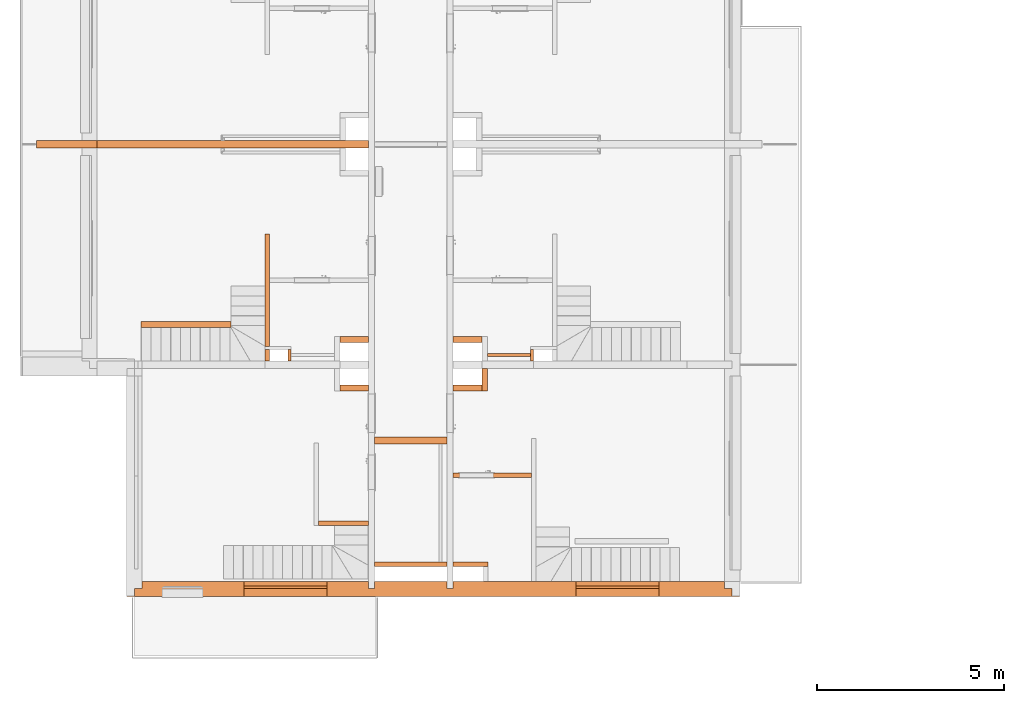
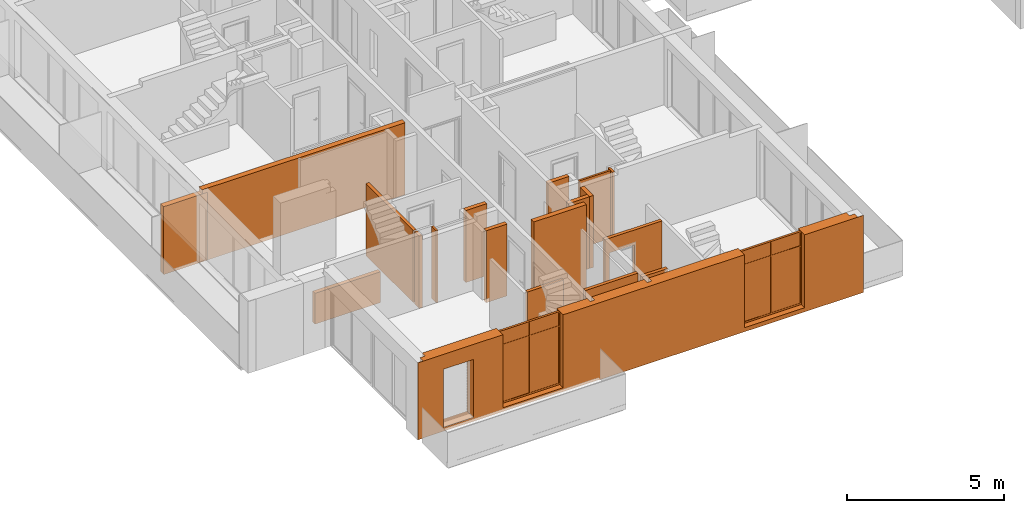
# One storey, part 45 of 61: 20 proxies, 4 openings.
"""IFC2X3 building model written with IfcOpenShell, lengths in millimetres."""

from ifc_helpers import new_model, entity, si_unit, converted_unit, derived_unit, money_unit, direction, frame, origin_with_axes, origin_2d_with_axis, place, context, subcontext, project, spatial, rectangle, extrude, faceted_brep, material, material_list, type_object, element, fill, save


model = new_model("IFC2X3")

# Units and contexts
model_context = context("Model", 3, precision=0.01, world=origin_with_axes(), true_north=direction((0.34421633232, 0.938890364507)))
body_context = subcontext(model_context, "Body", "Model", "MODEL_VIEW")
ifc_project = project(units=[si_unit("LENGTHUNIT", "METRE", prefix="MILLI"), si_unit("AREAUNIT", "SQUARE_METRE"), si_unit("VOLUMEUNIT", "CUBIC_METRE"), converted_unit("PLANEANGLEUNIT", "DEGREE", entity("IfcPlaneAngleMeasure", 0.0174532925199), si_unit("PLANEANGLEUNIT", "RADIAN"), dimensions=[0, 0, 0, 0, 0, 0, 0]), si_unit("SOLIDANGLEUNIT", "STERADIAN"), money_unit("USD"), converted_unit("TIMEUNIT", "Year", entity("IfcTimeMeasure", 31556926.0), si_unit("TIMEUNIT", "SECOND"), dimensions=[0, 0, 1, 0, 0, 0, 0]), si_unit("MASSUNIT", "GRAM", prefix="KILO"), si_unit("THERMODYNAMICTEMPERATUREUNIT", "DEGREE_CELSIUS"), si_unit("LUMINOUSINTENSITYUNIT", "LUMEN"), si_unit("ENERGYUNIT", "JOULE", prefix="MEGA"), derived_unit("THERMALCONDUCTANCEUNIT", [(si_unit("POWERUNIT", "WATT"), 1), (si_unit("LENGTHUNIT", "METRE"), -1), (si_unit("THERMODYNAMICTEMPERATUREUNIT", "KELVIN"), -1)]), derived_unit("SPECIFICHEATCAPACITYUNIT", [(si_unit("ENERGYUNIT", "JOULE"), 1), (si_unit("MASSUNIT", "GRAM", prefix="KILO"), -1), (si_unit("THERMODYNAMICTEMPERATUREUNIT", "KELVIN"), -1)]), derived_unit("MASSDENSITYUNIT", [(si_unit("MASSUNIT", "GRAM", prefix="KILO"), 1), (si_unit("VOLUMEUNIT", "CUBIC_METRE"), -1)])], contexts=[model_context])

# Site, building, storey
site_placement = place(None, origin_with_axes())
site = spatial("IfcSite", under=ifc_project, at=site_placement, Name="USTRONIE MORSKIE", CompositionType="ELEMENT")
building_placement = place(site_placement, origin_with_axes())
building = spatial("IfcBuilding", under=site, at=building_placement, Name="Budynek", CompositionType="ELEMENT")
storey_placement = place(building_placement, frame((0.0, 0.0, 13000.0), z_axis=(0.0, 0.0, 1.0), x_axis=(1.0, 0.0, 0.0)))
storey = spatial("IfcBuildingStorey", under=building, at=storey_placement, Name="PIĘTRO 4", CompositionType="ELEMENT", Elevation=13000.0)

# Proxies
ifc_material_1 = material(Name="Bloczki silikatowe")
building_element_proxy_type_1 = type_object("IfcBuildingElementProxyType", Name="Bloczki silikatowe 120", PredefinedType="NOTDEFINED")
proxy_1_placement = place(storey_placement, frame((356037.920919, 710861.199036, -160.0), z_axis=(0.0, 0.0, 1.0), x_axis=(1.0, 0.0, 0.0)))
element("IfcBuildingElementProxy", 1, at=proxy_1_placement, inside=storey, type_object=building_element_proxy_type_1, material=ifc_material_1, Name="SW-04", context=body_context, shape_type="Brep", body=[
    faceted_brep([(1400.0, -59.9999999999, 2800.0), (1400.0, 59.9999999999, 2800.0), (60.0, 59.9999999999, 2800.0), (60.0, -59.9999999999, 2800.0), (1400.0, -59.9999999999, 0.0), (1400.0, 59.9999999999, 0.0), (60.0, 59.9999999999, 0.0), (60.0, -59.9999999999, 0.0)], [[[0, 1, 2, 3]], [[1, 0, 4, 5]], [[1, 5, 6, 2]], [[7, 3, 2, 6]], [[4, 0, 3, 7]], [[5, 4, 7, 6]]]),
])
proxy_2_placement = place(storey_placement, frame((354717.920919, 715101.199036, -160.0), z_axis=(0.0, 0.0, 1.0), x_axis=(0.0, 1.0, 0.0)))
element("IfcBuildingElementProxy", 2, at=proxy_2_placement, inside=storey, type_object=building_element_proxy_type_1, material=ifc_material_1, Name="SW-04", context=body_context, shape_type="Brep", body=[
    faceted_brep([(480.000444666, 60.0, 0.0), (3499.99837346, 60.0, 0.0), (3499.99837346, -60.0, 0.0), (480.000444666, -60.0, 0.0), (480.000444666, 60.0, 2800.0), (3499.99837346, 60.0, 2800.0), (3499.99837346, -60.0, 2800.0), (480.000444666, -60.0, 2800.0)], [[[0, 1, 2, 3]], [[4, 5, 1, 0]], [[2, 1, 5, 6]], [[3, 2, 6, 7]], [[4, 0, 3, 7]], [[7, 6, 5, 4]]]),
    faceted_brep([(400.000444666, 60.0, 0.0), (400.000444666, -60.0, 0.0), (100.0, -60.0, 0.0), (100.0, 60.0, 0.0), (400.000444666, 60.0, 2800.0), (400.000444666, -60.0, 2800.0), (100.0, -60.0, 2800.0), (100.0, 60.0, 2800.0)], [[[0, 1, 2, 3]], [[1, 0, 4, 5]], [[1, 5, 6, 2]], [[7, 3, 2, 6]], [[4, 0, 3, 7]], [[5, 4, 7, 6]]]),
])
proxy_3_placement = place(storey_placement, frame((359617.920919, 709701.199036, -160.0), z_axis=(0.0, 0.0, 1.0), x_axis=(-1.0, 0.0, 0.0)))
element("IfcBuildingElementProxy", 3, at=proxy_3_placement, inside=storey, type_object=building_element_proxy_type_1, material=ifc_material_1, Name="SW-04", context=body_context, shape_type="Brep", body=[
    faceted_brep([(2020.0, -120.0, 0.0), (2020.0, -120.0, 3000.0), (80.0, -120.0, 3000.0), (80.0, -120.0, 0.0), (2020.0, 4.54747350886e-10, 3000.0), (2020.0, 4.54747350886e-10, 0.0), (80.0, -1.13686837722e-10, 3000.0), (80.0, 0.0, 0.0)], [[[0, 1, 2, 3]], [[4, 1, 0, 5]], [[4, 6, 2, 1]], [[3, 2, 6, 7]], [[0, 3, 7, 5]], [[7, 6, 4, 5]]]),
])

# Proxy, opening
proxy_4_placement = place(storey_placement, frame((359617.914553, 712141.199036, -160.0), z_axis=(0.0, 0.0, 1.0), x_axis=(1.0, 0.0, 0.0)))
proxy_4 = element("IfcBuildingElementProxy", 4, at=proxy_4_placement, inside=storey, type_object=building_element_proxy_type_1, material=ifc_material_1, Name="SW-04", context=body_context, shape_type="Brep", body=[
    faceted_brep([(2180.0, -59.9999999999, 2800.0), (2180.0, 59.9999999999, 2800.0), (80.0063657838, 59.9999999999, 2800.0), (80.0063657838, -59.9999999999, 2800.0), (2180.0, -59.9999999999, 0.0), (2180.0, 59.9999999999, 0.0), (80.0063657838, 59.9999999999, 0.0), (80.0063657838, -59.9999999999, 0.0)], [[[0, 1, 2, 3]], [[1, 0, 4, 5]], [[1, 5, 6, 2]], [[7, 3, 2, 6]], [[4, 0, 3, 7]], [[5, 4, 7, 6]]]),
])
opening_1_placement = place(proxy_4_placement, frame((710.0, 0.0, 160.0), z_axis=(0.0, 0.0, 1.0), x_axis=(1.0, 0.0, 0.0)))
element("IfcOpeningElement", 5, at=opening_1_placement, cuts=proxy_4, Name="Dw.4", context=body_context, shape_type="SweptSolid", body=[
    extrude(rectangle(XDim=920.0, YDim=2070.0, at=origin_2d_with_axis()), frame((0.0, 120.0, 1035.0), z_axis=(0.0, 1.0, 0.0), x_axis=(-1.0, 0.0, 0.0)), (0.0, 0.0, -1.0), 360.0),
    extrude(rectangle(XDim=994.0, YDim=2177.0, at=origin_2d_with_axis()), frame((0.0, 60.0000000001, 1088.5), z_axis=(0.0, 1.0, 0.0), x_axis=(-1.0, 0.0, 0.0)), (0.0, 0.0, 1.0), 120.0),
    extrude(rectangle(XDim=994.0, YDim=2177.0, at=origin_2d_with_axis()), frame((0.0, -59.9999999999, 1088.5), z_axis=(0.0, -1.0, 0.0), x_axis=(-1.0, 0.0, 0.0)), (0.0, 0.0, 1.0), 120.0),
])

# Proxy
proxy_5_placement = place(storey_placement, frame((359617.914553, 709701.199036, -160.0), z_axis=(0.0, 0.0, 1.0), x_axis=(1.0, 0.0, 0.0)))
element("IfcBuildingElementProxy", 6, at=proxy_5_placement, inside=storey, type_object=building_element_proxy_type_1, material=ifc_material_1, Name="SW-04", context=body_context, shape_type="Brep", body=[
    faceted_brep([(1020.0, 120.0, 0.0), (1020.0, 0.0, 0.0), (80.0063657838, 0.0, 0.0), (80.0063657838, 120.0, 0.0), (1020.0, 120.0, 2800.0), (1020.0, 0.0, 2800.0), (80.0063657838, 0.0, 2800.0), (80.0063657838, 120.0, 2800.0)], [[[0, 1, 2, 3]], [[1, 0, 4, 5]], [[1, 5, 6, 2]], [[7, 3, 2, 6]], [[4, 0, 3, 7]], [[5, 4, 7, 6]]]),
])

# Proxies, openings
ifc_material_2 = material(Name="Tynk zewnętrzny")
ifc_material_3 = material(Name="Wełna ELEW")
ifc_material_4 = material(Name="Beton konstrukcyjny B25")
ifc_material_list_1 = material_list([ifc_material_2, ifc_material_3, ifc_material_4])
building_element_proxy_type_2 = type_object("IfcBuildingElementProxyType", Name="20+20 410", PredefinedType="NOTDEFINED")
proxy_6_placement = place(storey_placement, frame((367067.957311, 709201.199036, -160.0), z_axis=(0.0, 0.0, 1.0), x_axis=(-1.0, 0.0, 0.0)))
proxy_6 = element("IfcBuildingElementProxy", 7, at=proxy_6_placement, inside=storey, type_object=building_element_proxy_type_2, material=ifc_material_list_1, Name="SZ-01", context=body_context, shape_type="Brep", body=[
    faceted_brep([(15900.0368073, 299.99990748, 110.0), (15900.0368073, 299.99990748, 0.0), (16100.0363918, 300.0, 0.0), (16100.0363918, 300.0, 3000.0), (-300.000619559, 300.0, 3000.0), (-300.000619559, 300.0, 0.0), (9450.03639181, 300.000003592, 0.0), (9450.03639181, 300.000003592, 110.0), (15900.0368281, 310.0, 110.0), (15900.0368281, 310.0, 0.0), (16100.0363918, 310.0, 0.0), (16100.0363918, 310.0, 3000.0), (-300.000640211, 310.0, 3000.0), (-300.000640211, 310.0, 0.0), (9450.03639181, 310.0, 0.0), (9450.03639181, 310.0, 110.0)], [[[0, 1, 2, 3, 4, 5, 6, 7]], [[0, 8, 9, 1]], [[1, 9, 10, 2]], [[11, 3, 2, 10]], [[3, 11, 12, 4]], [[5, 4, 12, 13]], [[14, 6, 5, 13]], [[15, 7, 6, 14]], [[0, 7, 15, 8]], [[15, 14, 13, 12, 11, 10, 9, 8]]]),
    faceted_brep([(15900.0363918, 100.0, 3000.0), (15900.0363918, 300.0, 3000.0), (-100.000619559, 300.0, 3000.0), (-100.00020652, 100.0, 3000.0), (15900.0363918, 100.0, 0.0), (15900.0363918, 300.0, 0.0), (-100.000619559, 300.0, 0.0), (-100.00020652, 100.0, 0.0)], [[[0, 1, 2, 3]], [[1, 0, 4, 5]], [[1, 5, 6, 2]], [[7, 3, 2, 6]], [[4, 0, 3, 7]], [[5, 4, 7, 6]]]),
    faceted_brep([(7370.03639181, 100.0, 3000.0), (99.9997934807, 100.0, 3000.0), (100.00020652, -100.0, 3000.0), (7370.03639181, -100.0, 3000.0), (7370.03639181, 100.0, 0.0), (99.9997934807, 100.0, 0.0), (100.00020652, -100.0, 0.0), (7370.03639181, -100.0, 0.0)], [[[0, 1, 2, 3]], [[4, 5, 1, 0]], [[2, 1, 5, 6]], [[3, 2, 6, 7]], [[3, 7, 4, 0]], [[7, 6, 5, 4]]]),
    faceted_brep([(9470.03639181, 100.0, 3000.0), (7530.03639181, 100.0, 3000.0), (7530.03639181, -100.0, 3000.0), (9470.03639181, -100.0, 3000.0), (9470.03639181, 100.0, 0.0), (7530.03639181, 100.0, 0.0), (7530.03639181, -100.0, 0.0), (9470.03639181, -100.0, 0.0)], [[[0, 1, 2, 3]], [[4, 5, 1, 0]], [[2, 1, 5, 6]], [[3, 2, 6, 7]], [[3, 7, 4, 0]], [[7, 6, 5, 4]]]),
    faceted_brep([(15700.0363918, 100.0, 3000.0), (9630.03639181, 100.0, 3000.0), (9630.03639181, -100.0, 3000.0), (15700.0363918, -100.0, 3000.0), (15700.0363918, 100.0, 0.0), (9630.03639181, 100.0, 0.0), (9630.03639181, -100.0, 0.0), (15700.0363918, -100.0, 0.0)], [[[0, 1, 2, 3]], [[4, 5, 1, 0]], [[2, 1, 5, 6]], [[3, 2, 6, 7]], [[3, 7, 4, 0]], [[7, 6, 5, 4]]]),
])
opening_2_placement = place(proxy_6_placement, frame((2969.96973452, 0.0, 160.0), z_axis=(0.0, 0.0, 1.0), x_axis=(1.0, 0.0, 0.0)))
opening_2 = element("IfcOpeningElement", 8, at=opening_2_placement, cuts=proxy_6, Name="Wz.05", context=body_context, shape_type="SweptSolid", body=[
    extrude(rectangle(XDim=2220.00002235, YDim=2840.0, at=origin_2d_with_axis()), frame((0.0, 100.0, 1420.0), z_axis=(0.0, 1.0, 0.0), x_axis=(-1.0, 0.0, 0.0)), (0.0, 0.0, 1.0), 620.0),
    extrude(rectangle(XDim=2220.00002235, YDim=2840.0, at=origin_2d_with_axis()), frame((0.0, 100.0, 1420.0), z_axis=(0.0, -1.0, 0.0), x_axis=(-1.0, 0.0, 0.0)), (0.0, 0.0, 1.0), 610.0),
])
opening_3_placement = place(proxy_6_placement, frame((14610.0363918, 0.0, 160.0), z_axis=(0.0, 0.0, 1.0), x_axis=(1.0, 0.0, 0.0)))
element("IfcOpeningElement", 9, at=opening_3_placement, cuts=proxy_6, Name="Wz.04", context=body_context, shape_type="SweptSolid", body=[
    extrude(rectangle(XDim=1100.0, YDim=2260.0, at=origin_2d_with_axis()), frame((0.0, 99.9999999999, 1130.0), z_axis=(0.0, 1.0, 0.0), x_axis=(1.0, 0.0, 0.0)), (0.0, 0.0, 1.0), 620.0),
    extrude(rectangle(XDim=1100.0, YDim=2260.0, at=origin_2d_with_axis()), frame((0.0, 100.0, 1130.0), z_axis=(0.0, -1.0, 0.0), x_axis=(1.0, 0.0, 0.0)), (0.0, 0.0, 1.0), 610.0),
])
opening_4_placement = place(proxy_6_placement, frame((11860.0212743, 0.0, 160.0), z_axis=(0.0, 0.0, 1.0), x_axis=(1.0, 0.0, 0.0)))
opening_4 = element("IfcOpeningElement", 10, at=opening_4_placement, cuts=proxy_6, Name="Wz.04", context=body_context, shape_type="SweptSolid", body=[
    extrude(rectangle(XDim=2219.96976491, YDim=2840.0, at=origin_2d_with_axis()), frame((0.0, 100.0, 1420.0), z_axis=(0.0, -1.0, 0.0), x_axis=(1.0, 0.0, 0.0)), (0.0, 0.0, -1.0), 620.0),
    extrude(rectangle(XDim=2219.96976491, YDim=2840.0, at=origin_2d_with_axis()), frame((0.0, 100.0, 1420.0), z_axis=(0.0, 1.0, 0.0), x_axis=(1.0, 0.0, 0.0)), (0.0, 0.0, -1.0), 610.0),
])
building_element_proxy_type_3 = type_object("IfcBuildingElementProxyType", Name="Witryna sklepowa, naświetle 2 23", PredefinedType="NOTDEFINED")
proxy_7_placement = place(opening_2_placement, frame((-1110.00001118, 0.0, 0.0), z_axis=(0.0, 0.0, 1.0), x_axis=(1.0, 0.0, 0.0)))
proxy_7 = element("IfcBuildingElementProxy", 11, at=proxy_7_placement, inside=storey, type_object=building_element_proxy_type_3, Name="Wz.05", context=body_context, shape_type="Brep", body=[
    faceted_brep([(2220.00002235, 100.0, 2800.0), (2220.00002235, 20.0, 2800.0), (2220.00002235, 20.0, 65.0), (2220.00002235, 100.0, 65.0), (2180.00002235, 100.0, 2800.0), (2180.00002235, 20.0, 2800.0), (2180.00002235, 20.0, 2300.0), (2180.00002235, 20.0, 2260.0), (2180.00002235, 20.0, 65.0), (2180.00002235, 100.0, 65.0), (2180.00002235, 100.0, 2260.0), (2180.00002235, 100.0, 2300.0)], [[[0, 1, 2, 3]], [[4, 5, 1, 0]], [[1, 5, 6, 7, 8, 2]], [[3, 2, 8, 9]], [[0, 3, 9, 10, 11, 4]], [[11, 6, 5, 4]], [[10, 7, 6, 11]], [[9, 8, 7, 10]]]),
    faceted_brep([(0.0, 100.0, 65.0), (0.0, 20.0, 65.0), (0.0, 20.0, 2800.0), (0.0, 100.0, 2800.0), (40.0, 100.0, 65.0), (40.0, 20.0, 65.0), (40.0, 20.0, 2260.0), (40.0, 20.0, 2300.0), (40.0, 20.0, 2800.0), (40.0, 100.0, 2800.0), (40.0, 100.0, 2300.0), (40.0, 100.0, 2260.0)], [[[0, 1, 2, 3]], [[4, 5, 1, 0]], [[1, 5, 6, 7, 8, 2]], [[3, 2, 8, 9]], [[0, 3, 9, 10, 11, 4]], [[11, 6, 5, 4]], [[10, 7, 6, 11]], [[9, 8, 7, 10]]]),
    faceted_brep([(0.0, 100.0, 2840.0), (0.0, 20.0, 2840.0), (2220.00002235, 20.0, 2840.0), (2220.00002235, 100.0, 2840.0), (0.0, 100.0, 2800.0), (0.0, 20.0, 2800.0), (40.0, 20.0, 2800.0), (2180.00002235, 20.0, 2800.0), (2220.00002235, 20.0, 2800.0), (2220.00002235, 100.0, 2800.0), (2180.00002235, 100.0, 2800.0), (40.0, 100.0, 2800.0)], [[[0, 1, 2, 3]], [[4, 5, 1, 0]], [[1, 5, 6, 7, 8, 2]], [[3, 2, 8, 9]], [[0, 3, 9, 10, 11, 4]], [[11, 6, 5, 4]], [[10, 7, 6, 11]], [[9, 8, 7, 10]]]),
    faceted_brep([(0.0, 100.0, 65.0), (0.0, 20.0, 65.0), (40.0, 20.0, 65.0), (40.0, 100.0, 65.0), (0.0, 100.0, 0.0), (0.0, 20.0, 0.0), (2220.00002235, 20.0, 0.0), (2220.00002235, 20.0, 65.0), (2180.00002235, 20.0, 65.0), (2180.00002235, 100.0, 65.0), (2220.00002235, 100.0, 65.0), (2220.00002235, 100.0, 0.0)], [[[0, 1, 2, 3]], [[4, 5, 1, 0]], [[1, 5, 6, 7, 8, 2]], [[3, 2, 8, 9]], [[0, 3, 9, 10, 11, 4]], [[11, 6, 5, 4]], [[10, 7, 6, 11]], [[9, 8, 7, 10]]]),
    faceted_brep([(2180.00002235, 100.0, 2300.0), (2180.00002235, 20.0, 2300.0), (2180.00002235, 20.0, 2260.0), (2180.00002235, 100.0, 2260.0), (40.0, 100.0, 2300.0), (40.0, 20.0, 2300.0), (40.0, 20.0, 2260.0), (40.0, 100.0, 2260.0)], [[[0, 1, 2, 3]], [[4, 5, 1, 0]], [[1, 5, 6, 2]], [[3, 2, 6, 7]], [[0, 3, 7, 4]], [[7, 6, 5, 4]]]),
    faceted_brep([(1095.00001118, 100.0, 2260.0), (1095.00001118, 100.0, 65.0), (1095.00001118, 50.0000000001, 65.0), (1095.00001118, 50.0000000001, 2260.0), (1125.00001118, 100.0, 2260.0), (1125.00001118, 100.0, 65.0), (1125.00001118, 50.0000000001, 65.0), (1125.00001118, 50.0000000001, 2260.0)], [[[0, 1, 2, 3]], [[4, 5, 1, 0]], [[6, 2, 1, 5]], [[3, 2, 6, 7]], [[7, 4, 0, 3]], [[7, 6, 5, 4]]]),
    faceted_brep([(1125.00001118, 50.0000000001, 2300.0), (1125.00001118, 50.0000000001, 2800.0), (1095.00001118, 50.0000000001, 2800.0), (1095.00001118, 50.0000000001, 2300.0), (1125.00001118, 100.0, 2300.0), (1125.00001118, 100.0, 2800.0), (1095.00001118, 100.0, 2800.0), (1095.00001118, 100.0, 2300.0)], [[[0, 1, 2, 3]], [[4, 5, 1, 0]], [[2, 1, 5, 6]], [[3, 2, 6, 7]], [[7, 4, 0, 3]], [[7, 6, 5, 4]]]),
    faceted_brep([(2180.00002235, 90.0, 65.0), (2180.00002235, 80.0, 65.0), (1125.00001118, 80.0, 65.0), (1125.00001118, 90.0, 65.0), (2180.00002235, 90.0, 2260.0), (2180.00002235, 80.0, 2260.0), (1125.00001118, 80.0, 2260.0), (1125.00001118, 90.0, 2260.0)], [[[0, 1, 2, 3]], [[4, 5, 1, 0]], [[1, 5, 6, 2]], [[3, 2, 6, 7]], [[0, 3, 7, 4]], [[7, 6, 5, 4]]]),
    faceted_brep([(1095.00001118, 90.0, 65.0), (1095.00001118, 80.0, 65.0), (40.0, 80.0, 65.0), (40.0, 90.0, 65.0), (1095.00001118, 90.0, 2260.0), (1095.00001118, 80.0, 2260.0), (40.0, 80.0, 2260.0), (40.0, 90.0, 2260.0)], [[[0, 1, 2, 3]], [[4, 5, 1, 0]], [[1, 5, 6, 2]], [[3, 2, 6, 7]], [[0, 3, 7, 4]], [[7, 6, 5, 4]]]),
    faceted_brep([(2180.00002235, 90.0, 2300.0), (2180.00002235, 80.0, 2300.0), (1125.00001118, 80.0, 2300.0), (1125.00001118, 90.0, 2300.0), (2180.00002235, 90.0, 2800.0), (2180.00002235, 80.0, 2800.0), (1125.00001118, 80.0, 2800.0), (1125.00001118, 90.0, 2800.0)], [[[0, 1, 2, 3]], [[4, 5, 1, 0]], [[1, 5, 6, 2]], [[3, 2, 6, 7]], [[0, 3, 7, 4]], [[7, 6, 5, 4]]]),
    faceted_brep([(1095.00001118, 90.0, 2300.0), (1095.00001118, 80.0, 2300.0), (40.0, 80.0, 2300.0), (40.0, 90.0, 2300.0), (1095.00001118, 90.0, 2800.0), (1095.00001118, 80.0, 2800.0), (40.0, 80.0, 2800.0), (40.0, 90.0, 2800.0)], [[[0, 1, 2, 3]], [[4, 5, 1, 0]], [[1, 5, 6, 2]], [[3, 2, 6, 7]], [[0, 3, 7, 4]], [[7, 6, 5, 4]]]),
])
fill(opening_2, proxy_7)
proxy_8_placement = place(opening_4_placement, frame((-1109.98488246, 0.0, 0.0), z_axis=(0.0, 0.0, 1.0), x_axis=(1.0, 0.0, 0.0)))
proxy_8 = element("IfcBuildingElementProxy", 12, at=proxy_8_placement, inside=storey, type_object=building_element_proxy_type_3, Name="Wz.04", context=body_context, shape_type="Brep", body=[
    faceted_brep([(0.0, 100.0, 2800.0), (0.0, 100.0, 65.0), (0.0, 20.0, 65.0), (0.0, 20.0, 2800.0), (40.0, 100.0, 2800.0), (40.0, 100.0, 2300.0), (40.0, 100.0, 2260.0), (40.0, 100.0, 65.0), (40.0, 20.0, 65.0), (40.0, 20.0, 2260.0), (40.0, 20.0, 2300.0), (40.0, 20.0, 2800.0)], [[[0, 1, 2, 3]], [[0, 4, 5, 6, 7, 1]], [[1, 7, 8, 2]], [[3, 2, 8, 9, 10, 11]], [[4, 0, 3, 11]], [[5, 4, 11, 10]], [[6, 5, 10, 9]], [[7, 6, 9, 8]]]),
    faceted_brep([(2219.96976491, 100.0, 65.0), (2219.96976491, 100.0, 2800.0), (2219.96976491, 20.0, 2800.0), (2219.96976491, 20.0, 65.0), (2179.96976491, 100.0, 65.0), (2179.96976491, 100.0, 2260.0), (2179.96976491, 100.0, 2300.0), (2179.96976491, 100.0, 2800.0), (2179.96976491, 20.0, 2800.0), (2179.96976491, 20.0, 2300.0), (2179.96976491, 20.0, 2260.0), (2179.96976491, 20.0, 65.0)], [[[0, 1, 2, 3]], [[0, 4, 5, 6, 7, 1]], [[1, 7, 8, 2]], [[3, 2, 8, 9, 10, 11]], [[4, 0, 3, 11]], [[5, 4, 11, 10]], [[6, 5, 10, 9]], [[7, 6, 9, 8]]]),
    faceted_brep([(2219.96976491, 100.0, 2840.0), (0.0, 100.0, 2840.0), (0.0, 20.0, 2840.0), (2219.96976491, 20.0, 2840.0), (2219.96976491, 100.0, 2800.0), (2179.96976491, 100.0, 2800.0), (40.0, 100.0, 2800.0), (0.0, 100.0, 2800.0), (0.0, 20.0, 2800.0), (40.0, 20.0, 2800.0), (2179.96976491, 20.0, 2800.0), (2219.96976491, 20.0, 2800.0)], [[[0, 1, 2, 3]], [[0, 4, 5, 6, 7, 1]], [[1, 7, 8, 2]], [[3, 2, 8, 9, 10, 11]], [[4, 0, 3, 11]], [[5, 4, 11, 10]], [[6, 5, 10, 9]], [[7, 6, 9, 8]]]),
    faceted_brep([(2219.96976491, 100.0, 65.0), (2179.96976491, 100.0, 65.0), (2179.96976491, 20.0, 65.0), (2219.96976491, 20.0, 65.0), (2219.96976491, 100.0, 0.0), (0.0, 100.0, 0.0), (0.0, 100.0, 65.0), (40.0, 100.0, 65.0), (40.0, 20.0, 65.0), (0.0, 20.0, 65.0), (0.0, 20.0, 0.0), (2219.96976491, 20.0, 0.0)], [[[0, 1, 2, 3]], [[0, 4, 5, 6, 7, 1]], [[1, 7, 8, 2]], [[3, 2, 8, 9, 10, 11]], [[4, 0, 3, 11]], [[5, 4, 11, 10]], [[6, 5, 10, 9]], [[7, 6, 9, 8]]]),
    faceted_brep([(40.0, 100.0, 2300.0), (40.0, 100.0, 2260.0), (40.0, 20.0, 2260.0), (40.0, 20.0, 2300.0), (2179.96976491, 100.0, 2300.0), (2179.96976491, 100.0, 2260.0), (2179.96976491, 20.0, 2260.0), (2179.96976491, 20.0, 2300.0)], [[[0, 1, 2, 3]], [[0, 4, 5, 1]], [[1, 5, 6, 2]], [[3, 2, 6, 7]], [[4, 0, 3, 7]], [[5, 4, 7, 6]]]),
    faceted_brep([(1124.98488246, 100.0, 2260.0), (1124.98488246, 50.0000000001, 2260.0), (1124.98488246, 50.0000000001, 65.0), (1124.98488246, 100.0, 65.0), (1094.98488246, 50.0000000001, 2260.0), (1094.98488246, 100.0, 2260.0), (1094.98488246, 50.0000000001, 65.0), (1094.98488246, 100.0, 65.0)], [[[0, 1, 2, 3]], [[4, 1, 0, 5]], [[1, 4, 6, 2]], [[6, 7, 3, 2]], [[5, 0, 3, 7]], [[4, 5, 7, 6]]]),
    faceted_brep([(1094.98488246, 50.0000000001, 2300.0), (1124.98488246, 50.0000000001, 2300.0), (1124.98488246, 50.0000000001, 2800.0), (1094.98488246, 50.0000000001, 2800.0), (1124.98488246, 100.0, 2300.0), (1094.98488246, 100.0, 2300.0), (1124.98488246, 100.0, 2800.0), (1094.98488246, 100.0, 2800.0)], [[[0, 1, 2, 3]], [[4, 1, 0, 5]], [[1, 4, 6, 2]], [[2, 6, 7, 3]], [[5, 0, 3, 7]], [[4, 5, 7, 6]]]),
    faceted_brep([(40.0, 90.0, 65.0), (1094.98488246, 90.0, 65.0), (1094.98488246, 80.0, 65.0), (40.0, 80.0, 65.0), (40.0, 90.0, 2260.0), (1094.98488246, 90.0, 2260.0), (1094.98488246, 80.0, 2260.0), (40.0, 80.0, 2260.0)], [[[0, 1, 2, 3]], [[0, 4, 5, 1]], [[1, 5, 6, 2]], [[3, 2, 6, 7]], [[4, 0, 3, 7]], [[5, 4, 7, 6]]]),
    faceted_brep([(1124.98488246, 90.0, 65.0), (2179.96976491, 90.0, 65.0), (2179.96976491, 80.0, 65.0), (1124.98488246, 80.0, 65.0), (1124.98488246, 90.0, 2260.0), (2179.96976491, 90.0, 2260.0), (2179.96976491, 80.0, 2260.0), (1124.98488246, 80.0, 2260.0)], [[[0, 1, 2, 3]], [[0, 4, 5, 1]], [[1, 5, 6, 2]], [[3, 2, 6, 7]], [[4, 0, 3, 7]], [[5, 4, 7, 6]]]),
    faceted_brep([(40.0, 90.0, 2300.0), (1094.98488246, 90.0, 2300.0), (1094.98488246, 80.0, 2300.0), (40.0, 80.0, 2300.0), (40.0, 90.0, 2800.0), (1094.98488246, 90.0, 2800.0), (1094.98488246, 80.0, 2800.0), (40.0, 80.0, 2800.0)], [[[0, 1, 2, 3]], [[0, 4, 5, 1]], [[1, 5, 6, 2]], [[3, 2, 6, 7]], [[4, 0, 3, 7]], [[5, 4, 7, 6]]]),
    faceted_brep([(1124.98488246, 90.0, 2300.0), (2179.96976491, 90.0, 2300.0), (2179.96976491, 80.0, 2300.0), (1124.98488246, 80.0, 2300.0), (1124.98488246, 90.0, 2800.0), (2179.96976491, 90.0, 2800.0), (2179.96976491, 80.0, 2800.0), (1124.98488246, 80.0, 2800.0)], [[[0, 1, 2, 3]], [[0, 4, 5, 1]], [[1, 5, 6, 2]], [[3, 2, 6, 7]], [[4, 0, 3, 7]], [[5, 4, 7, 6]]]),
])
fill(opening_4, proxy_8)

# Proxies
building_element_proxy_type_4 = type_object("IfcBuildingElementProxyType", Name="Bloczki silikatowe 180", PredefinedType="NOTDEFINED")
proxy_9_placement = place(storey_placement, frame((359617.920919, 713071.199036, -160.0), z_axis=(0.0, 0.0, 1.0), x_axis=(-1.0, 0.0, 0.0)))
element("IfcBuildingElementProxy", 13, at=proxy_9_placement, inside=storey, type_object=building_element_proxy_type_4, material=ifc_material_1, Name="SW-02", context=body_context, shape_type="Brep", body=[
    faceted_brep([(2020.0, -90.0, 3680.0), (2020.0, 90.0, 3680.0), (80.0, 90.0, 3680.0), (80.0, -90.0, 3680.0), (2020.0, -90.0, 0.0), (2020.0, 90.0, 0.0), (80.0, 90.0, 0.0), (80.0, -90.0, 0.0)], [[[0, 1, 2, 3]], [[4, 5, 1, 0]], [[5, 6, 2, 1]], [[6, 7, 3, 2]], [[4, 0, 3, 7]], [[5, 4, 7, 6]]]),
])
ifc_material_5 = material(Name="Płyta GK")
ifc_material_6 = material(Name="-Pustka powietrzna")
ifc_material_list_2 = material_list([ifc_material_5, ifc_material_5, ifc_material_6])
building_element_proxy_type_5 = type_object("IfcBuildingElementProxyType", Name="330-SD GK 2-warstwy 75", PredefinedType="NOTDEFINED")
proxy_10_placement = place(storey_placement, frame((360542.92182, 715371.197725, -180.0), z_axis=(0.0, 0.0, 1.0), x_axis=(1.0, 0.0, 0.0)))
element("IfcBuildingElementProxy", 14, at=proxy_10_placement, inside=storey, type_object=building_element_proxy_type_5, material=ifc_material_list_2, Name="Ściana-009", context=body_context, shape_type="Brep", body=[
    faceted_brep([(1234.99909883, 12.5, 165.0), (1234.99909883, 25.0, 165.0), (1234.99909883, 25.0, 2820.0), (1234.99909883, 12.5, 2820.0), (75.0, 25.0, 165.0), (75.0, 12.5, 165.0), (75.0, 25.0, 2820.0), (75.0, 12.5, 2820.0)], [[[0, 1, 2, 3]], [[4, 1, 0, 5]], [[1, 4, 6, 2]], [[2, 6, 7, 3]], [[5, 0, 3, 7]], [[4, 5, 7, 6]]]),
    faceted_brep([(1234.99909883, 0.0, 165.0), (1234.99909883, 12.5, 165.0), (1234.99909883, 12.5, 2820.0), (1234.99909883, 0.0, 2820.0), (75.0, 12.5, 165.0), (75.0, 0.0, 165.0), (75.0, 12.5, 2820.0), (75.0, 0.0, 2820.0)], [[[0, 1, 2, 3]], [[4, 1, 0, 5]], [[1, 4, 6, 2]], [[2, 6, 7, 3]], [[5, 0, 3, 7]], [[4, 5, 7, 6]]]),
    faceted_brep([(1234.99909883, -50.0, 180.0), (1234.99909883, 0.0, 180.0), (1234.99909883, 0.0, 2820.0), (1234.99909883, -50.0, 2820.0), (75.0, 0.0, 180.0), (75.0, -50.0, 180.0), (75.0, 0.0, 2820.0), (75.0, -50.0, 2820.0)], [[[0, 1, 2, 3]], [[4, 1, 0, 5]], [[1, 4, 6, 2]], [[2, 6, 7, 3]], [[5, 0, 3, 7]], [[4, 5, 7, 6]]]),
])
building_element_proxy_type_6 = type_object("IfcBuildingElementProxyType", Name="Bloczki silikatowe 80", PredefinedType="NOTDEFINED")
proxy_11_placement = place(storey_placement, frame((355317.920919, 715101.199036, -160.0), z_axis=(0.0, 0.0, 1.0), x_axis=(0.0, 1.0, 0.0)))
element("IfcBuildingElementProxy", 15, at=proxy_11_placement, inside=storey, type_object=building_element_proxy_type_6, material=ifc_material_1, Name="Ściana-010", context=body_context, shape_type="Brep", body=[
    faceted_brep([(400.000444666, 40.0, 0.0), (400.000444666, -40.0, 0.0), (100.0, -40.0, 0.0), (100.0, 40.0, 0.0), (400.000444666, 40.0, 2800.0), (400.000444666, -40.0, 2800.0), (100.0, -40.0, 2800.0), (100.0, 40.0, 2800.0)], [[[0, 1, 2, 3]], [[1, 0, 4, 5]], [[1, 5, 6, 2]], [[7, 3, 2, 6]], [[4, 0, 3, 7]], [[5, 4, 7, 6]]]),
])
proxy_12_placement = place(storey_placement, frame((361817.920919, 715101.199027, -160.0), z_axis=(0.0, 0.0, 1.0), x_axis=(0.0, 1.0, 0.0)))
element("IfcBuildingElementProxy", 16, at=proxy_12_placement, inside=storey, type_object=building_element_proxy_type_6, material=ifc_material_1, Name="Ściana-010", context=body_context, shape_type="Brep", body=[
    faceted_brep([(400.000454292, -40.0, 2800.0), (400.000454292, 40.0, 2800.0), (100.000009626, 40.0, 2800.0), (100.000009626, -40.0, 2800.0), (400.000454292, -40.0, 0.0), (400.000454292, 40.0, 0.0), (100.000009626, 40.0, 0.0), (100.000009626, -40.0, 0.0)], [[[0, 1, 2, 3]], [[1, 0, 4, 5]], [[1, 5, 6, 2]], [[7, 3, 2, 6]], [[4, 0, 3, 7]], [[5, 4, 7, 6]]]),
])
building_element_proxy_type_7 = type_object("IfcBuildingElementProxyType", Name="Bloczki silikatowe 150", PredefinedType="NOTDEFINED")
proxy_13_placement = place(storey_placement, frame((356592.920018, 714476.197058, -160.0), z_axis=(0.0, 0.0, 1.0), x_axis=(1.0, 0.0, 0.0)))
element("IfcBuildingElementProxy", 17, at=proxy_13_placement, inside=storey, type_object=building_element_proxy_type_7, material=ifc_material_1, Name="SW-03", context=body_context, shape_type="Brep", body=[
    faceted_brep([(845.00090117, -75.0, 2800.0), (845.00090117, 75.0, 2800.0), (75.0, 75.0, 2800.0), (75.0, -75.0, 2800.0), (845.00090117, -75.0, 0.0), (845.00090117, 75.0, 0.0), (75.0, 75.0, 0.0), (75.0, -75.0, 0.0)], [[[0, 1, 2, 3]], [[1, 0, 4, 5]], [[1, 5, 6, 2]], [[7, 3, 2, 6]], [[4, 0, 3, 7]], [[5, 4, 7, 6]]]),
])
proxy_14_placement = place(storey_placement, frame((360542.915454, 715101.199035, -160.0), z_axis=(0.0, 0.0, 1.0), x_axis=(0.0, -1.0, 0.0)))
element("IfcBuildingElementProxy", 18, at=proxy_14_placement, inside=storey, type_object=building_element_proxy_type_7, material=ifc_material_1, Name="Ściana-009", context=body_context, shape_type="Brep", body=[
    faceted_brep([(700.001982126, 75.0, 0.0), (700.001982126, -75.0, 0.0), (99.9999984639, -75.0, 0.0), (99.9999984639, 75.0, 0.0), (700.001982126, 75.0, 2800.0), (700.001982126, -75.0, 2800.0), (99.9999984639, -75.0, 2800.0), (99.9999984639, 75.0, 2800.0)], [[[0, 1, 2, 3]], [[1, 0, 4, 5]], [[1, 5, 6, 2]], [[7, 3, 2, 6]], [[4, 0, 3, 7]], [[5, 4, 7, 6]]]),
])
proxy_15_placement = place(storey_placement, frame((353757.920919, 716176.199036, -160.0), z_axis=(0.0, 0.0, 1.0), x_axis=(-1.0, 0.0, 0.0)))
element("IfcBuildingElementProxy", 19, at=proxy_15_placement, inside=storey, type_object=building_element_proxy_type_7, material=ifc_material_1, Name="SW-03", context=body_context, shape_type="Brep", body=[
    faceted_brep([(0.0, -75.0, 1200.0), (2410.0, -75.0, 1200.0), (2410.0, 75.0, 1200.0), (0.0, 75.0, 1200.0), (0.0, -75.0, 0.0), (2410.0, -75.0, 0.0), (2410.0, 75.0, 0.0), (0.0, 75.0, 0.0)], [[[0, 1, 2, 3]], [[4, 5, 1, 0]], [[2, 1, 5, 6]], [[3, 2, 6, 7]], [[4, 0, 3, 7]], [[7, 6, 5, 4]]]),
])
proxy_16_placement = place(storey_placement, frame((360542.92182, 715776.201014, -160.0), z_axis=(0.0, 0.0, 1.0), x_axis=(-1.0, 0.0, 0.0)))
element("IfcBuildingElementProxy", 20, at=proxy_16_placement, inside=storey, type_object=building_element_proxy_type_7, material=ifc_material_1, Name="SW-03", context=body_context, shape_type="Brep", body=[
    faceted_brep([(845.00090117, -75.0, 2800.0), (845.00090117, 75.0, 2800.0), (75.0, 75.0, 2800.0), (75.0, -75.0, 2800.0), (845.00090117, -75.0, 0.0), (845.00090117, 75.0, 0.0), (75.0, 75.0, 0.0), (75.0, -75.0, 0.0)], [[[0, 1, 2, 3]], [[1, 0, 4, 5]], [[1, 5, 6, 2]], [[7, 3, 2, 6]], [[4, 0, 3, 7]], [[5, 4, 7, 6]]]),
])
proxy_17_placement = place(storey_placement, frame((356592.920018, 715776.201014, -160.0), z_axis=(0.0, 0.0, 1.0), x_axis=(1.0, 0.0, 0.0)))
element("IfcBuildingElementProxy", 21, at=proxy_17_placement, inside=storey, type_object=building_element_proxy_type_7, material=ifc_material_1, Name="SW-03", context=body_context, shape_type="Brep", body=[
    faceted_brep([(845.00090117, 75.0, 0.0), (845.00090117, -75.0, 0.0), (75.0, -75.0, 0.0), (75.0, 75.0, 0.0), (845.00090117, 75.0, 2800.0), (845.00090117, -75.0, 2800.0), (75.0, -75.0, 2800.0), (75.0, 75.0, 2800.0)], [[[0, 1, 2, 3]], [[1, 0, 4, 5]], [[1, 5, 6, 2]], [[7, 3, 2, 6]], [[4, 0, 3, 7]], [[5, 4, 7, 6]]]),
])
proxy_18_placement = place(storey_placement, frame((360542.915454, 714476.197053, -160.0), z_axis=(0.0, 0.0, 1.0), x_axis=(-1.0, 0.0, 0.0)))
element("IfcBuildingElementProxy", 22, at=proxy_18_placement, inside=storey, type_object=building_element_proxy_type_7, material=ifc_material_1, Name="Ściana-009", context=body_context, shape_type="Brep", body=[
    faceted_brep([(844.994535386, 75.0, 0.0), (844.994535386, -75.0, 0.0), (75.0, -75.0, 0.0), (75.0, 75.0, 0.0), (844.994535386, 75.0, 2800.0), (844.994535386, -75.0, 2800.0), (75.0, -75.0, 2800.0), (75.0, 75.0, 2800.0)], [[[0, 1, 2, 3]], [[1, 0, 4, 5]], [[1, 5, 6, 2]], [[7, 3, 2, 6]], [[4, 0, 3, 7]], [[5, 4, 7, 6]]]),
])
building_element_proxy_type_8 = type_object("IfcBuildingElementProxyType", Name="Beton konstrukcyjny B25 200", PredefinedType="NOTDEFINED")
proxy_19_placement = place(storey_placement, frame((348547.88964, 721001.199036, -160.0), z_axis=(0.0, 0.0, 1.0), x_axis=(1.0, 0.0, 0.0)))
element("IfcBuildingElementProxy", 23, at=proxy_19_placement, inside=storey, type_object=building_element_proxy_type_8, material=ifc_material_4, Name="SW-01", context=body_context, shape_type="Brep", body=[
    faceted_brep([(0.0, -100.0, 0.0), (0.0, 100.0, 0.0), (1620.03127886, 100.0, 0.0), (1620.03127886, -100.0, 0.0), (0.0, -100.0, 2639.99999792), (0.0, 100.0, 2639.99999792), (1620.03127886, 100.0, 2639.99999792), (1620.03127886, -100.0, 2639.99999792)], [[[0, 1, 2, 3]], [[0, 4, 5, 1]], [[1, 5, 6, 2]], [[6, 7, 3, 2]], [[4, 0, 3, 7]], [[5, 4, 7, 6]]]),
])
proxy_20_placement = place(storey_placement, frame((350067.920919, 721001.199036, -160.0), z_axis=(0.0, 0.0, 1.0), x_axis=(0.999999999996, 2.96919088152e-06, 0.0)))
element("IfcBuildingElementProxy", 24, at=proxy_20_placement, inside=storey, type_object=building_element_proxy_type_8, material=ifc_material_4, Name="SW-01", context=body_context, shape_type="Brep", body=[
    faceted_brep([(100.000296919, 99.9997030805, 0.0), (100.000296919, 99.9997030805, 2639.99999792), (-99.9997030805, 100.000296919, 2639.99999792), (-99.9997030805, 100.000296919, 2799.99999792), (7370.00029689, 99.9781170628, 2800.0), (7370.00029689, 99.9781170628, 0.0), (99.9997030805, -100.000296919, 2639.99999792), (99.9997030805, -100.000296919, 0.0), (-100.000296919, -99.9997030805, 2639.99999792), (-100.000296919, -99.9997030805, 2799.99999792), (7369.99970305, -100.021882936, 2800.0), (7369.99970305, -100.021882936, 0.0)], [[[0, 1, 2, 3, 4, 5]], [[6, 1, 0, 7]], [[8, 2, 1, 6]], [[3, 2, 8, 9]], [[4, 3, 9, 10]], [[11, 5, 4, 10]], [[11, 7, 0, 5]], [[8, 6, 7, 11, 10, 9]]]),
])

save(model, "model.ifc")
